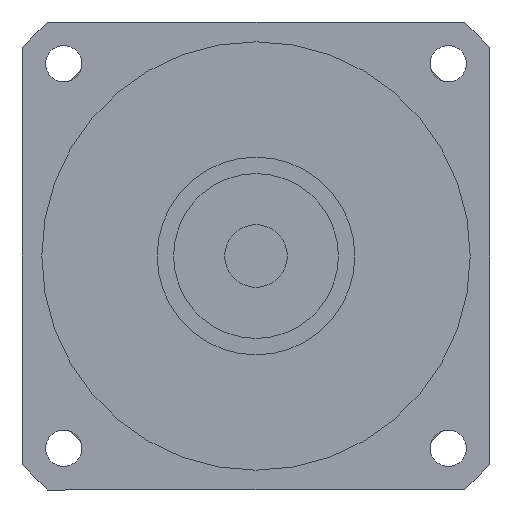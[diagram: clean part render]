
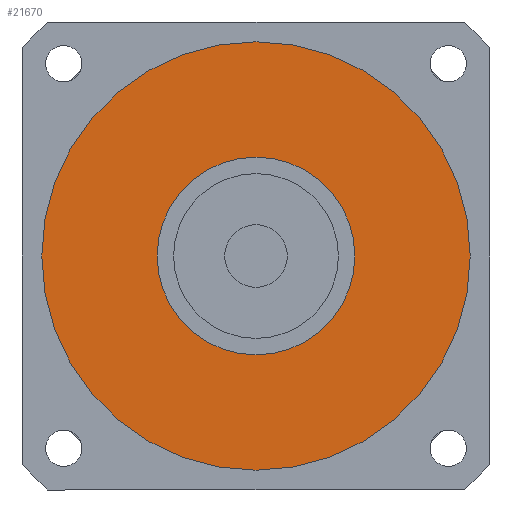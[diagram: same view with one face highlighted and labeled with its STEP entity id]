
A CAD part, left-side view. The second image highlights one B-rep face of the part: STEP entity #21670.
In plain terms, the highlighted planar face has unit normal (-1, 0, 0) as drawn and (0, 0, -1) by its records, which use the part's own axes.
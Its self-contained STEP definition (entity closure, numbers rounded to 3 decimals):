
#21090=CARTESIAN_POINT('',(-65.,0.,-96.5));
#21100=VERTEX_POINT('',#21090);
#21190=CARTESIAN_POINT('',(65.,0.,-96.5));
#21200=VERTEX_POINT('',#21190);
#21230=CARTESIAN_POINT('',(0.,0.,
-96.5));
#21240=DIRECTION('',(0.,0.,1.));
#21250=DIRECTION('',(0.,-1.,0.));
#21260=AXIS2_PLACEMENT_3D('',#21230,#21240,#21250);
#21270=CIRCLE('',#21260,65.);
#21280=CARTESIAN_POINT('',(0.,-65.,-96.5));
#21290=VERTEX_POINT('',#21280);
#21300=EDGE_CURVE('',#21290,#21200,#21270,.T.);
#21320=EDGE_CURVE('',#21100,#21290,#21270,.T.);
#21370=CARTESIAN_POINT('',(0.,0.,
-96.5));
#21380=DIRECTION('',(0.,0.,1.));
#21390=DIRECTION('',(-1.,0.,0.));
#21400=AXIS2_PLACEMENT_3D('',#21370,#21380,#21390);
#21410=PLANE('',#21400);
#21420=ORIENTED_EDGE('',*,*,#21300,.F.);
#21430=EDGE_CURVE('',#21200,#21100,#21270,.T.);
#21440=ORIENTED_EDGE('',*,*,#21430,.F.);
#21450=ORIENTED_EDGE('',*,*,#21320,.F.);
#21460=EDGE_LOOP('',(#21450,#21440,#21420));
#21470=FACE_OUTER_BOUND('',#21460,.T.);
#21480=CARTESIAN_POINT('',(0.,0.,
-96.5));
#21490=DIRECTION('',(0.,0.,1.));
#21500=DIRECTION('',(0.,-1.,0.));
#21510=AXIS2_PLACEMENT_3D('',#21480,#21490,#21500);
#21520=CIRCLE('',#21510,30.);
#21530=CARTESIAN_POINT('',(30.,0.,-96.5));
#21540=VERTEX_POINT('',#21530);
#21550=CARTESIAN_POINT('',(-30.,0.,-96.5));
#21560=VERTEX_POINT('',#21550);
#21570=EDGE_CURVE('',#21540,#21560,#21520,.T.);
#21580=ORIENTED_EDGE('',*,*,#21570,.T.);
#21590=CARTESIAN_POINT('',(0.,-30.,-96.5));
#21600=VERTEX_POINT('',#21590);
#21610=EDGE_CURVE('',#21600,#21540,#21520,.T.);
#21620=ORIENTED_EDGE('',*,*,#21610,.T.);
#21630=EDGE_CURVE('',#21560,#21600,#21520,.T.);
#21640=ORIENTED_EDGE('',*,*,#21630,.T.);
#21650=EDGE_LOOP('',(#21640,#21620,#21580));
#21660=FACE_BOUND('',#21650,.T.);
#21670=ADVANCED_FACE('',(#21470,#21660),#21410,.F.);
